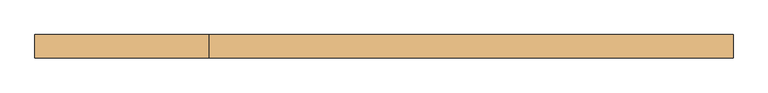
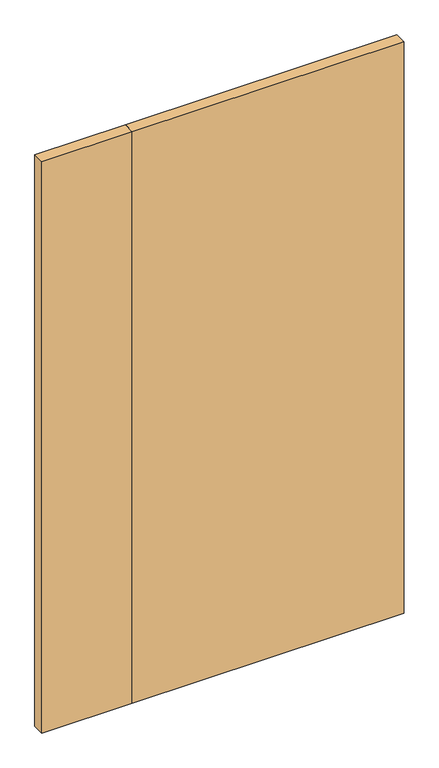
"""IFC4 building model written with IfcOpenShell, lengths in millimetres: door geometry, 営_親子扉 : SD9 1350*2000."""

from ifc_helpers import new_model, si_unit, origin, origin_with_axes, place, context, project, spatial, polyline, outline, extrude, source, transform, mapped, element, save


def door_3f385317(model_context):
    return source(origin(), model_context, "Body", "SweptSolid", [
        extrude(outline(polyline([(-300.0, 40.0), (-300.0, 80.0), (600.0, 80.0), (600.0, 40.0), (-300.0, 40.0)])), origin_with_axes(), (0.0, 0.0, 1.0), 2000.0),
        extrude(outline(polyline([(-300.0, 40.0), (-600.0, 40.0), (-600.0, 80.0), (-300.0, 80.0), (-300.0, 40.0)])), origin_with_axes(), (0.0, 0.0, 1.0), 2000.0),
    ])


if __name__ == "__main__":
    model = new_model("IFC4")
    model_context = context("Model", 3, world=origin())
    ifc_project = project(units=[si_unit("LENGTHUNIT", "METRE", prefix="MILLI")], contexts=[model_context])
    site = spatial("IfcSite", under=ifc_project)
    building = spatial("IfcBuilding", under=site)
    placement = place(None, origin())
    door_shape = door_3f385317(model_context)
    element("IfcDoor", 1, ObjectType="営_親子扉 : SD9 1350*2000", at=placement, inside=building, context=model_context, shape_type="MappedRepresentation", body=[
        mapped(door_shape, transform((0.0, 0.0, 0.0), x_axis=(1.0, 0.0, 0.0), y_axis=(0.0, 1.0, 0.0), z_axis=(0.0, 0.0, 1.0))),
    ])
    save(model, "model.ifc")
